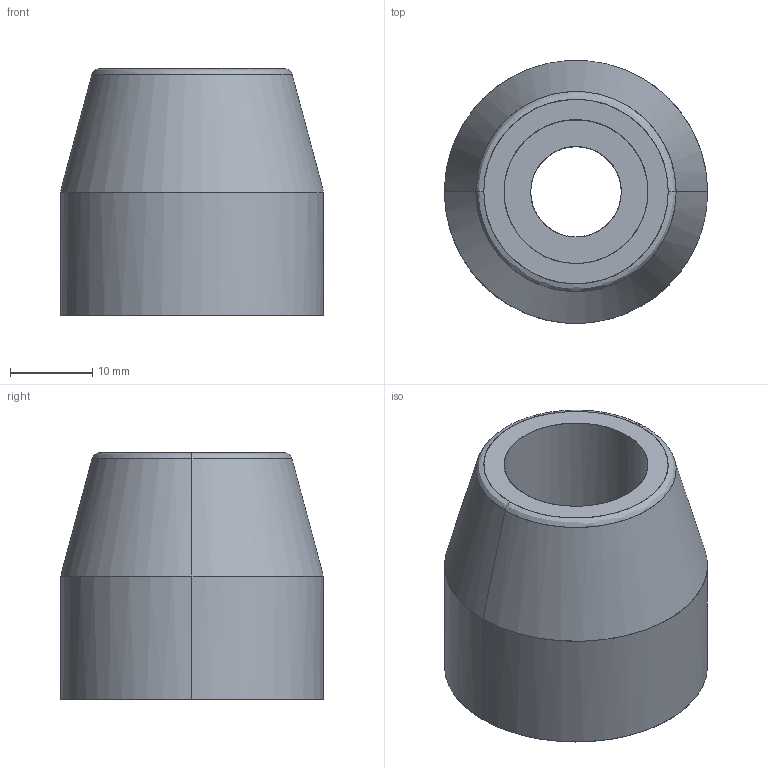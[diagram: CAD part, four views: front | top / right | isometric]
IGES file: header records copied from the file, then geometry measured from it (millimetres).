
Global section: file name: E:\UnigraphicsGraphicData\MISUMI_PRESS-PARTS\IGES\3d_lpu32-30_01657_r00.igs; native system: NX V5.0; preprocessor: UGS NX IGES V5.0; author: MISUMI; date: 20110105.161228; units: millimetre
Bounding box: 32 x 32 x 30 mm (x, y, z)
Surface area: 5223.9 mm2 (no closed solid volume)
Topology: 0 solids, 0 shells, 13 faces, 96 edges, 96 vertices
Faces by surface type: bspline 13
